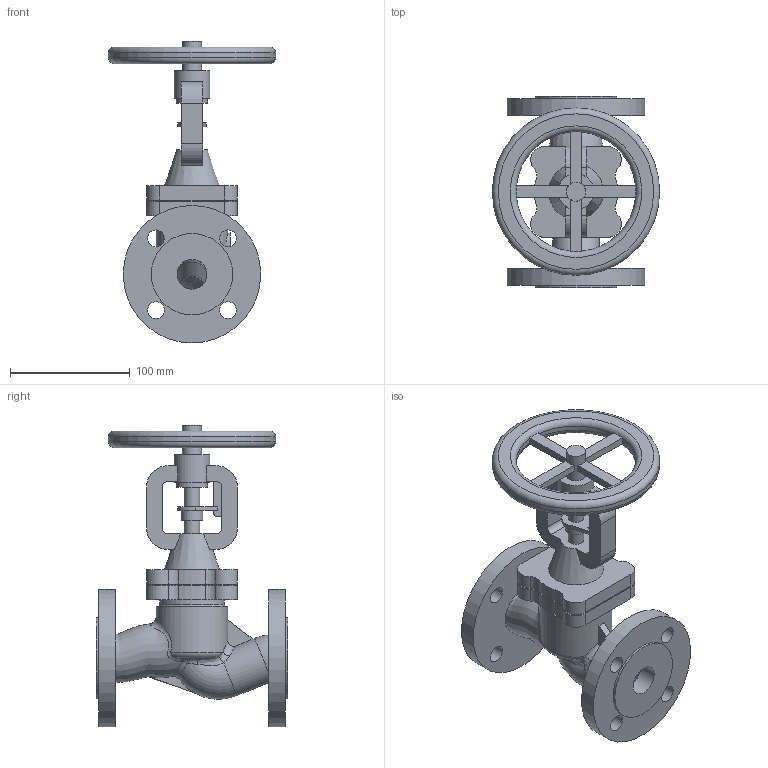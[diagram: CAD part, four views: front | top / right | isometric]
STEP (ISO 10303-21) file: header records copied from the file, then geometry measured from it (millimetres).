
FILE_DESCRIPTION(('STEP AP203'), '1');
FILE_NAME('孰囡囗 玎镱痦 BV1F DN25', '', ('UNSPECIFIED'), ('UNSPECIFIED'), 'ASCON STEP Converter 1.6', 'ASCON Math Kernel', '');
FILE_SCHEMA(('CONFIG_CONTROL_DESIGN'));
Length unit declared in the file: millimetre
Bounding box: 140 x 160 x 252.5 mm (x, y, z)
Volume: 837344 mm3; surface area: 156676 mm2
Topology: 1 solids, 2 shells, 201 faces, 560 edges, 379 vertices
Faces by surface type: plane 96, cylinder 69, bspline 22, torus 13, cone 1
Full cylindrical faces by diameter (mm): 13 x2, 14 x8, 16 x1, 18 x1, 25 x3, 26 x1, 30 x1, 39 x1, 54 x1, 60 x2, 68 x2, 115 x2, 140 x1
Entity records: 47617 total; most frequent: CARTESIAN_POINT 41000, ORIENTED_EDGE 1046, DIRECTION 963, EDGE_CURVE 523, AXIS2_PLACEMENT_3D 390, VERTEX_POINT 379, EDGE_LOOP 282, FACE_BOUND 245
